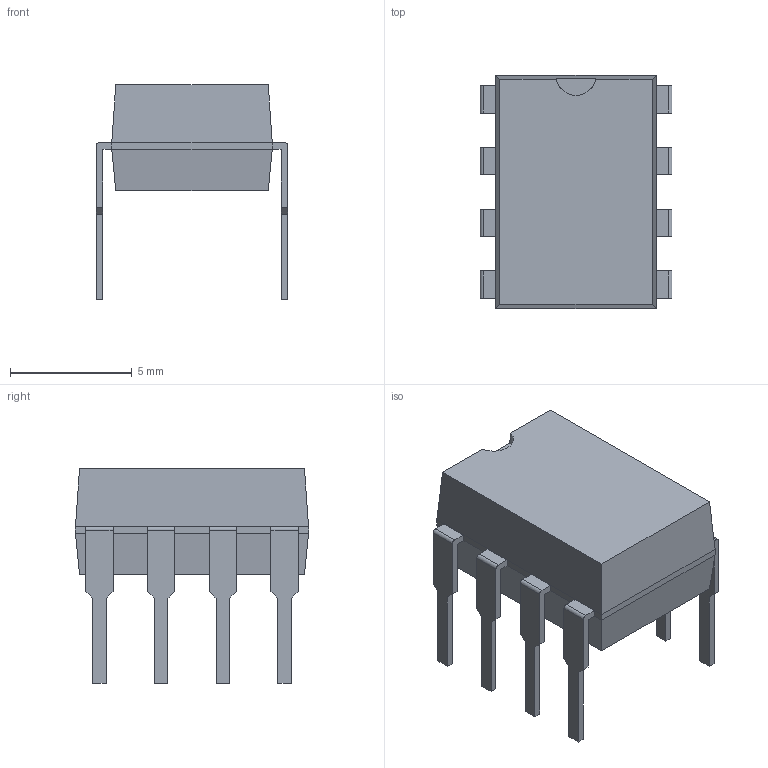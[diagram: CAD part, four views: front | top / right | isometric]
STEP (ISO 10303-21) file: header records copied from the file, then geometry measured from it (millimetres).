
FILE_DESCRIPTION(('FreeCAD Model'),'2;1');
FILE_NAME('/var/www/3D/0T/4685485.2.3.stp','2025-07-09T18:24:20',( 'Author'),(''),'Open CASCADE STEP processor 6.9','FreeCAD','Unknown' );
FILE_SCHEMA(('AUTOMOTIVE_DESIGN { 1 0 10303 214 1 1 1 1 }'));
Length unit declared in the file: millimetre
Products named in the file (3): ASSEMBLY; Body; PinsArrayLR
Assembly tree (2 placements, depth 2):
  ASSEMBLY
    Body
    PinsArrayLR
Bounding box: 7.9 x 9.59 x 8.83 mm (x, y, z)
Volume: 278.1 mm3; surface area: 379.6 mm2
Topology: 9 solids, 9 shells, 120 faces, 298 edges, 196 vertices
Faces by surface type: plane 111, cylinder 9
Entity records: 7521 total; most frequent: CARTESIAN_POINT 1279, DIRECTION 1148, LINE 850, VECTOR 850, ORIENTED_EDGE 596, PCURVE 596, DEFINITIONAL_REPRESENTATION 596, EDGE_CURVE 298
